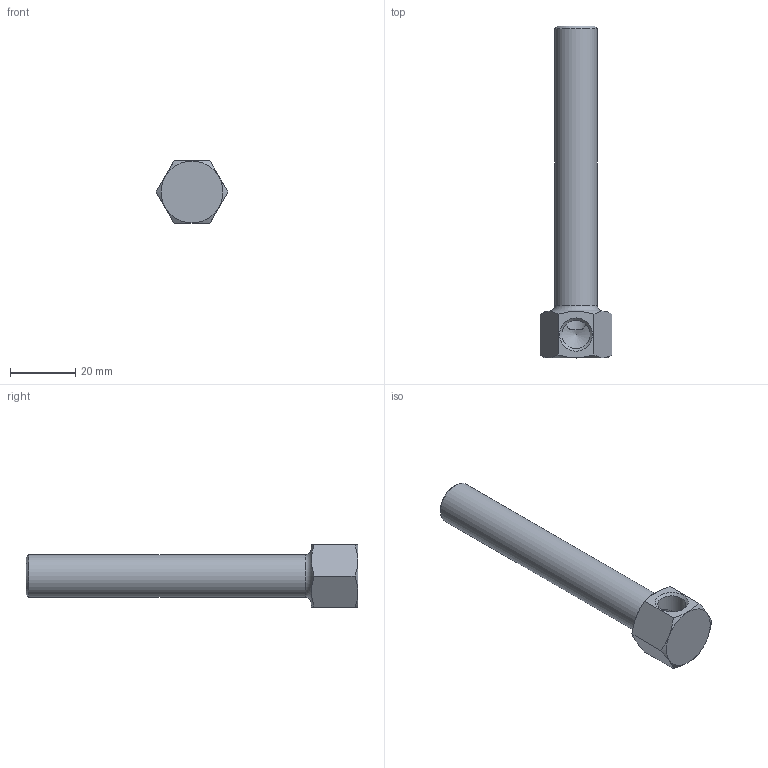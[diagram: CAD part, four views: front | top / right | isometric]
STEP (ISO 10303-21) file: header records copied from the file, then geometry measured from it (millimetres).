
FILE_DESCRIPTION(/* description */ (''),/* implementation_level */ '2;1');
FILE_NAME(/* name */ 'C:/Users/drich/Desktop/1814B-4 v1.step',/* time_stamp */ '2019-12-29T15:30:09-06:00',/* author */ (''),/* organization */ (''),/* preprocessor_version */ 'ST-DEVELOPER v18',/* originating_system */ 'Autodesk Translation Framework v8.12.0.6',/* authorisation */ '');
FILE_SCHEMA (('AUTOMOTIVE_DESIGN { 1 0 10303 214 3 1 1 }'));
Length unit declared in the file: inch
Products named in the file (1): 1814B-4
Bounding box: 22 x 101.6 x 19.05 mm (x, y, z)
Volume: 9918.7 mm3; surface area: 7778.1 mm2
Topology: 1 solids, 1 shells, 22 faces, 57 edges, 37 vertices
Faces by surface type: plane 9, cone 8, cylinder 4, torus 1
Full cylindrical faces by diameter (mm): 8.707 x1, 8.712 x1, 13.032 x1
Entity records: 801 total; most frequent: CARTESIAN_POINT 256, ORIENTED_EDGE 112, DIRECTION 100, EDGE_CURVE 56, AXIS2_PLACEMENT_3D 42, VERTEX_POINT 37, EDGE_LOOP 25, FACE_OUTER_BOUND 22
